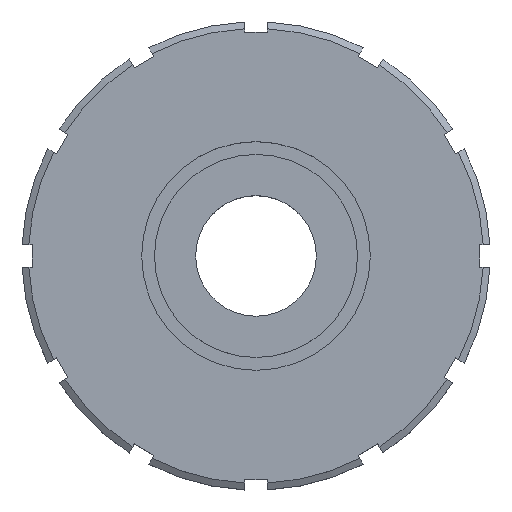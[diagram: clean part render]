
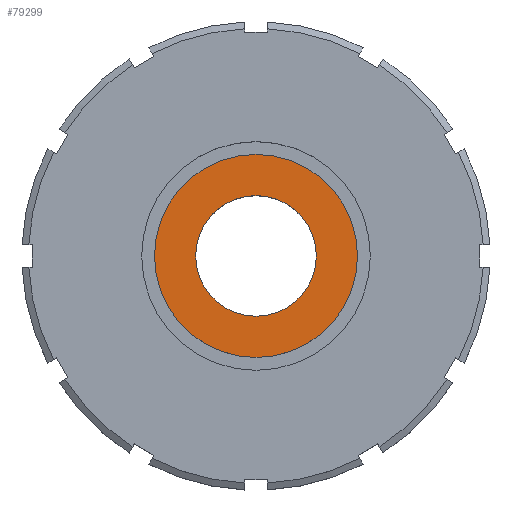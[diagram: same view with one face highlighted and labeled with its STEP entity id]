
A CAD part, top view. The second image highlights one B-rep face of the part: STEP entity #79299.
In plain terms, the highlighted planar face has unit normal (0, 0, 1).
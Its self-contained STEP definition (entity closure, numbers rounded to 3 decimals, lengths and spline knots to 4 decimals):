
#5162 = CYLINDRICAL_SURFACE('',#5163,2.4);
#5163 = AXIS2_PLACEMENT_3D('',#5164,#5165,#5166);
#5164 = CARTESIAN_POINT('',(0.,0.,-9.71));
#5165 = DIRECTION('',(0.,0.,1.));
#5166 = DIRECTION('',(1.,0.,-0.));
#46135 = EDGE_CURVE('',#46136,#46136,#46138,.T.);
#46136 = VERTEX_POINT('',#46137);
#46137 = CARTESIAN_POINT('',(2.4,0.,-6.7));
#46138 = SURFACE_CURVE('',#46139,(#46144,#46151),.PCURVE_S1.);
#46139 = CIRCLE('',#46140,2.4);
#46140 = AXIS2_PLACEMENT_3D('',#46141,#46142,#46143);
#46141 = CARTESIAN_POINT('',(0.,0.,-6.7));
#46142 = DIRECTION('',(0.,0.,1.));
#46143 = DIRECTION('',(1.,0.,-0.));
#46144 = PCURVE('',#5162,#46145);
#46145 = DEFINITIONAL_REPRESENTATION('',(#46146),#46150);
#46146 = LINE('',#46147,#46148);
#46147 = CARTESIAN_POINT('',(0.,3.01));
#46148 = VECTOR('',#46149,1.);
#46149 = DIRECTION('',(1.,0.));
#46150 = ( GEOMETRIC_REPRESENTATION_CONTEXT(2) 
PARAMETRIC_REPRESENTATION_CONTEXT() REPRESENTATION_CONTEXT('2D SPACE',''
  ) );
#46151 = PCURVE('',#46152,#46157);
#46152 = PLANE('',#46153);
#46153 = AXIS2_PLACEMENT_3D('',#46154,#46155,#46156);
#46154 = CARTESIAN_POINT('',(0.,0.,-6.7));
#46155 = DIRECTION('',(0.,0.,1.));
#46156 = DIRECTION('',(1.,0.,-0.));
#46157 = DEFINITIONAL_REPRESENTATION('',(#46158),#46162);
#46158 = CIRCLE('',#46159,2.4);
#46159 = AXIS2_PLACEMENT_2D('',#46160,#46161);
#46160 = CARTESIAN_POINT('',(0.,0.));
#46161 = DIRECTION('',(1.,0.));
#46162 = ( GEOMETRIC_REPRESENTATION_CONTEXT(2) 
PARAMETRIC_REPRESENTATION_CONTEXT() REPRESENTATION_CONTEXT('2D SPACE',''
  ) );
#79299 = ADVANCED_FACE('',(#79300,#79331),#46152,.T.);
#79300 = FACE_BOUND('',#79301,.T.);
#79301 = EDGE_LOOP('',(#79302));
#79302 = ORIENTED_EDGE('',*,*,#79303,.T.);
#79303 = EDGE_CURVE('',#79304,#79304,#79306,.T.);
#79304 = VERTEX_POINT('',#79305);
#79305 = CARTESIAN_POINT('',(4.04,0.,-6.7));
#79306 = SURFACE_CURVE('',#79307,(#79312,#79319),.PCURVE_S1.);
#79307 = CIRCLE('',#79308,4.04);
#79308 = AXIS2_PLACEMENT_3D('',#79309,#79310,#79311);
#79309 = CARTESIAN_POINT('',(0.,0.,-6.7));
#79310 = DIRECTION('',(0.,0.,1.));
#79311 = DIRECTION('',(1.,0.,-0.));
#79312 = PCURVE('',#46152,#79313);
#79313 = DEFINITIONAL_REPRESENTATION('',(#79314),#79318);
#79314 = CIRCLE('',#79315,4.04);
#79315 = AXIS2_PLACEMENT_2D('',#79316,#79317);
#79316 = CARTESIAN_POINT('',(0.,0.));
#79317 = DIRECTION('',(1.,0.));
#79318 = ( GEOMETRIC_REPRESENTATION_CONTEXT(2) 
PARAMETRIC_REPRESENTATION_CONTEXT() REPRESENTATION_CONTEXT('2D SPACE',''
  ) );
#79319 = PCURVE('',#79320,#79325);
#79320 = CYLINDRICAL_SURFACE('',#79321,4.04);
#79321 = AXIS2_PLACEMENT_3D('',#79322,#79323,#79324);
#79322 = CARTESIAN_POINT('',(0.,0.,-7.91));
#79323 = DIRECTION('',(0.,0.,1.));
#79324 = DIRECTION('',(1.,0.,-0.));
#79325 = DEFINITIONAL_REPRESENTATION('',(#79326),#79330);
#79326 = LINE('',#79327,#79328);
#79327 = CARTESIAN_POINT('',(0.,1.21));
#79328 = VECTOR('',#79329,1.);
#79329 = DIRECTION('',(1.,0.));
#79330 = ( GEOMETRIC_REPRESENTATION_CONTEXT(2) 
PARAMETRIC_REPRESENTATION_CONTEXT() REPRESENTATION_CONTEXT('2D SPACE',''
  ) );
#79331 = FACE_BOUND('',#79332,.T.);
#79332 = EDGE_LOOP('',(#79333));
#79333 = ORIENTED_EDGE('',*,*,#46135,.F.);
